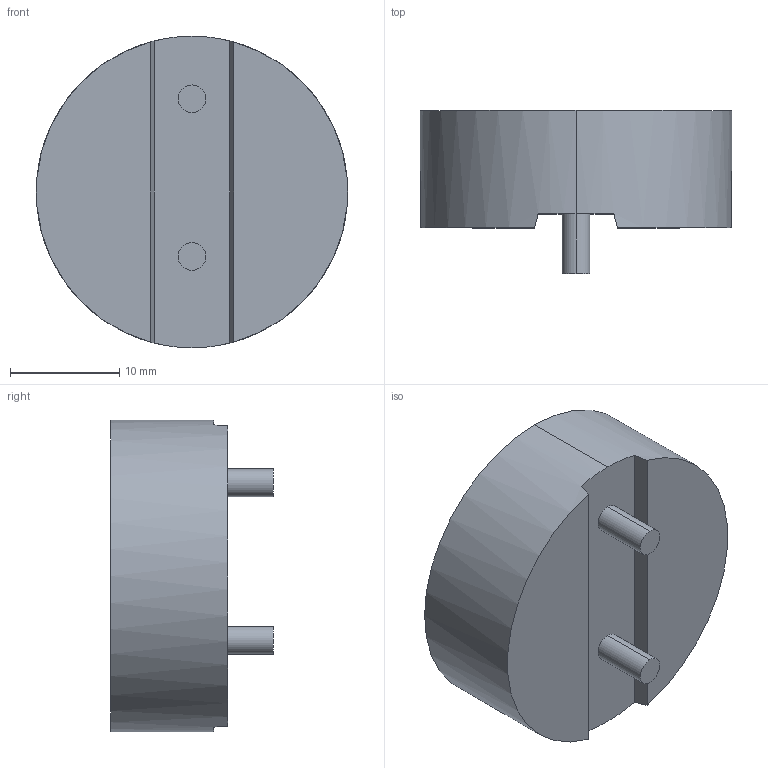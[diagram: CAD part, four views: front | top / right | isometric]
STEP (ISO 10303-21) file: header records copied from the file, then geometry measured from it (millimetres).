
FILE_DESCRIPTION (( 'STEP AP214' ), '1' );
FILE_NAME ('IHTH-1125KZ-5A 1.0uH.STEP', '2025-03-14T19:02:02', ( '' ), ( '' ), 'SwSTEP 2.0', 'SolidWorks 2024', '' );
FILE_SCHEMA (( 'AUTOMOTIVE_DESIGN' ));
Length unit declared in the file: inch
Products named in the file (1): IHTH-1125KZ-5A 1.0uH
Bounding box: 28.57 x 14.94 x 28.57 mm (x, y, z)
Volume: 6684 mm3; surface area: 2372.9 mm2
Topology: 1 solids, 1 shells, 187 faces, 483 edges, 322 vertices
Faces by surface type: plane 127, bspline 50, cylinder 10
Entity records: 8832 total; most frequent: CARTESIAN_POINT 4559, ORIENTED_EDGE 966, DIRECTION 679, EDGE_CURVE 483, LINE 355, VECTOR 355, VERTEX_POINT 322, EDGE_LOOP 211
